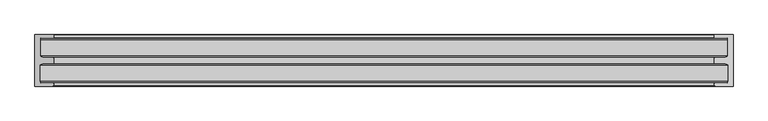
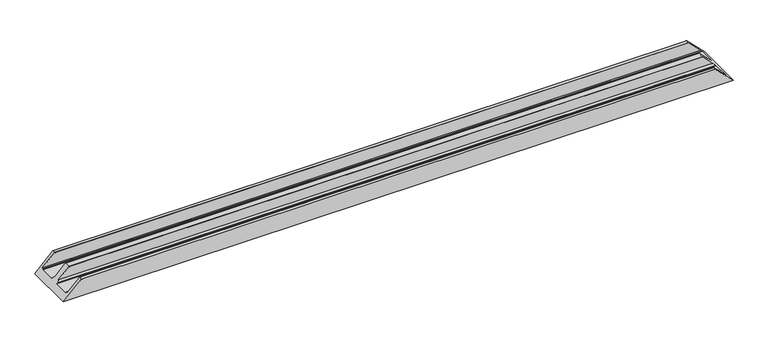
"""IFC4 building model written with IfcOpenShell, lengths in millimetres: proxy geometry, Weiku - Montante - Caixilho duplo 02.3.02.409 : Weiku - Montante - Caixilho duplo 02.3.02.409."""

from ifc_helpers import new_model, si_unit, frame, origin, place, context, project, spatial, ellipse_curve, source, transform, mapped, element, save
from ifc_brep_helpers import plane_surface, cylinder_surface, advanced_brep


def generic_models_37e9449f(model_context):
    return source(origin(), model_context, "Body", "AdvancedBrep", [
        advanced_brep(
        [(-1038.2, 9.8, 18.2), (-1000.5, 9.8, 55.9), (1000.5, 9.8, 55.9), (1038.2, 9.8, 18.2), (-1040.7000079, 63.85, 15.6999921), (-1040.7000079, 15.05, 15.6999921), (1040.7000079, 15.05, 15.6999921), (1040.7000079, 63.85, 15.6999921), (-1000.5000055, 69.1, 55.8999945), (-1032.5700642, 69.1, 23.8299358), (1032.5700642, 69.1, 23.8299358), (1000.5000055, 69.1, 55.8999945), (-1000.0000055, 86.65, 56.3999945), (-1000.0000055, 69.6, 56.3999945), (1000.0000055, 69.6, 56.3999945), (1000.0000055, 86.65, 56.3999945), (-1032.6236827, 87.15, 23.7763173), (-1000.5000055, 87.15, 55.8999945), (1000.5000055, 87.15, 55.8999945), (1032.6236827, 87.15, 23.7763173), (-1056.4, 156.2000166, 0.0), (1056.4, 156.2000166, 0.0), (1056.4, 0.0, 0.0), (-1056.4, 0.0, 0.0), (1000.5, 0.0, 55.9), (-1000.5, 0.0, 55.9), (-1000.0, 9.3, 56.4), (-1000.0, 0.5, 56.4), (1000.0, 0.5, 56.4), (1000.0, 9.3, 56.4), (-1038.2, 15.05, 18.2), (-1038.2, 63.85, 18.2), (-1038.2000178, 92.3500166, 18.1999822), (-1040.7000079, 92.3500166, 15.6999921), (-1040.7000079, 141.1500166, 15.6999921), (-1038.2, 141.1500166, 18.2), (-1038.2, 146.4000166, 18.2), (-1000.5, 146.4000166, 55.9), (-1000.0, 146.9000166, 56.4), (-1000.0, 155.7000166, 56.4), (-1000.5, 156.2000166, 55.9), (1000.5, 156.2000166, 55.9), (1000.0, 155.7000166, 56.4), (1000.0, 146.9000166, 56.4), (1000.5, 146.4000166, 55.9), (1038.2, 146.4000166, 18.2), (1038.2, 141.1500166, 18.2), (1040.7000079, 141.1500166, 15.6999921), (1040.7000079, 92.3500166, 15.6999921), (1038.2000178, 92.3500166, 18.1999822), (1038.2, 63.85, 18.2), (1038.2, 15.05, 18.2)],
        [
            (0, 1),
            (1, 2),
            (2, 3),
            (3, 0),
            (4, 5),
            (5, 6),
            (6, 7),
            (7, 4),
            (8, 9),
            (9, 10),
            (10, 11),
            (11, 8),
            (12, 13),
            (13, 14),
            (14, 15),
            (15, 12),
            (16, 17),
            (17, 18),
            (18, 19),
            (19, 16),
            (20, 21),
            (21, 22),
            (22, 23),
            (23, 20),
            (22, 24),
            (24, 25),
            (25, 23),
            (26, 27),
            (27, 28),
            (28, 29),
            (29, 26),
            (0, 30),
            (30, 5),
            (4, 31),
            (31, 9),
            (8, 13, ellipse_curve(frame((-1000.5000055, 69.6, 55.8999945), z_axis=(-0.7071067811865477, 0.0, 0.7071067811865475), x_axis=(-0.7071067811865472, 0.0, -0.7071067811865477)), 0.7071068, 0.5)),
            (12, 17, ellipse_curve(frame((-1000.5000055, 86.65, 55.8999945), z_axis=(-0.7071067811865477, 0.0, 0.7071067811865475), x_axis=(-0.7071067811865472, 0.0, -0.7071067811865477)), 0.7071068, 0.5)),
            (16, 32),
            (32, 33),
            (33, 34),
            (34, 35),
            (35, 36),
            (36, 37),
            (37, 38, ellipse_curve(frame((-1000.5, 146.9000166, 55.9), z_axis=(-0.7071067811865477, 0.0, 0.7071067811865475), x_axis=(-0.7071067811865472, 0.0, -0.7071067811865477)), 0.7071068, 0.5)),
            (38, 39),
            (39, 40, ellipse_curve(frame((-1000.5, 155.7000166, 55.9), z_axis=(-0.7071067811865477, 0.0, 0.7071067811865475), x_axis=(-0.7071067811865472, 0.0, -0.7071067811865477)), 0.7071068, 0.5)),
            (40, 20),
            (25, 27, ellipse_curve(frame((-1000.5, 0.5, 55.9), z_axis=(-0.7071067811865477, 0.0, 0.7071067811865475), x_axis=(-0.7071067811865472, 0.0, -0.7071067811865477)), 0.7071068, 0.5)),
            (26, 1, ellipse_curve(frame((-1000.5, 9.3, 55.9), z_axis=(-0.7071067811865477, 0.0, 0.7071067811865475), x_axis=(-0.7071067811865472, 0.0, -0.7071067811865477)), 0.7071068, 0.5)),
            (2, 29, ellipse_curve(frame((1000.5, 9.3, 55.9), z_axis=(0.7071067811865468, 0.0, 0.7071067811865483), x_axis=(-0.7071067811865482, 0.0, 0.7071067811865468)), 0.7071068, 0.5)),
            (28, 24, ellipse_curve(frame((1000.5, 0.5, 55.9), z_axis=(0.7071067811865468, 0.0, 0.7071067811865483), x_axis=(-0.7071067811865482, 0.0, 0.7071067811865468)), 0.7071068, 0.5)),
            (21, 41),
            (41, 42, ellipse_curve(frame((1000.5, 155.7000166, 55.9), z_axis=(0.7071067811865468, 0.0, 0.7071067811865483), x_axis=(-0.7071067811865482, 0.0, 0.7071067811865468)), 0.7071068, 0.5)),
            (42, 43),
            (43, 44, ellipse_curve(frame((1000.5, 146.9000166, 55.9), z_axis=(0.7071067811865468, 0.0, 0.7071067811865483), x_axis=(-0.7071067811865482, 0.0, 0.7071067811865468)), 0.7071068, 0.5)),
            (44, 45),
            (45, 46),
            (46, 47),
            (47, 48),
            (48, 49),
            (49, 19),
            (18, 15, ellipse_curve(frame((1000.5000055, 86.65, 55.8999945), z_axis=(0.7071067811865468, 0.0, 0.7071067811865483), x_axis=(-0.7071067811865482, 0.0, 0.7071067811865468)), 0.7071068, 0.5)),
            (14, 11, ellipse_curve(frame((1000.5000055, 69.6, 55.8999945), z_axis=(0.7071067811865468, 0.0, 0.7071067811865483), x_axis=(-0.7071067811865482, 0.0, 0.7071067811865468)), 0.7071068, 0.5)),
            (10, 50),
            (50, 7),
            (6, 51),
            (51, 3),
            (51, 30),
            (50, 31),
            (49, 32),
            (48, 33),
            (47, 34),
            (46, 35),
            (45, 36),
            (44, 37),
            (38, 43),
            (42, 39),
            (41, 40),
        ],
        [
            plane_surface(frame((-1056.4, 9.8, 55.9), z_axis=(0.0, 1.0, 0.0), x_axis=(1.0, 0.0, 0.0))),
            plane_surface(frame((-1056.4, 15.05, 15.6999921), z_axis=(0.0, 0.0, 1.0), x_axis=(1.0, 0.0, 0.0))),
            plane_surface(frame((-1056.4, 69.1, 23.8299358), z_axis=(0.0, -1.0, 0.0), x_axis=(1.0, 0.0, 0.0))),
            plane_surface(frame((-1056.4, 69.6, 56.3999945), z_axis=(0.0, 0.0, 1.0), x_axis=(1.0, 0.0, 0.0))),
            plane_surface(frame((-1056.4, 87.15, 55.8999945), z_axis=(0.0, 1.0, 0.0), x_axis=(1.0, 0.0, 0.0))),
            plane_surface(frame((-1056.4, 156.2000166, 0.0), z_axis=(0.0, 0.0, -1.0), x_axis=(1.0, 0.0, 0.0))),
            plane_surface(frame((-1056.4, 0.0, 0.0), z_axis=(0.0, -1.0, 0.0), x_axis=(1.0, 0.0, 0.0))),
            plane_surface(frame((-1056.4, 0.5, 56.4), z_axis=(0.0, 0.0, 1.0), x_axis=(1.0, 0.0, 0.0))),
            plane_surface(frame((-1056.4, 0.0, 0.0), z_axis=(-0.7071067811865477, 0.0, 0.7071067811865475), x_axis=(0.0, 1.0, 0.0))),
            plane_surface(frame((996.4, 0.0, 60.0), z_axis=(0.7071067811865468, 0.0, 0.7071067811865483), x_axis=(0.0, 1.0, 0.0))),
            plane_surface(frame((-1056.4, 9.8, 18.2), z_axis=(0.0, 0.0, 1.0), x_axis=(1.0, 0.0, 0.0))),
            plane_surface(frame((-1056.4, 15.05, 18.2), z_axis=(0.0, 1.0, 0.0), x_axis=(1.0, 0.0, 0.0))),
            plane_surface(frame((-1056.4, 63.85, 15.6999921), z_axis=(0.0, -1.0, 0.0), x_axis=(1.0, 0.0, 0.0))),
            plane_surface(frame((-1056.4, 63.85, 18.2), z_axis=(0.0, -0.7313537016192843, 0.6819983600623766), x_axis=(1.0, 0.0, 0.0))),
            cylinder_surface(frame((-1056.4, 86.65, 55.8999945), z_axis=(-1.0, 0.0, 0.0), x_axis=(0.0, 1.0, 0.0)), 0.5),
            cylinder_surface(frame((-1056.4, 0.5, 55.9), z_axis=(-1.0, 0.0, 0.0), x_axis=(0.0, 1.0, 0.0)), 0.5),
            plane_surface(frame((-1056.4, 87.15, 23.7763173), z_axis=(0.0, 0.7313537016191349, 0.6819983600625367), x_axis=(1.0, 0.0, 0.0))),
            plane_surface(frame((-1056.4, 92.3500166, 18.1999822), z_axis=(0.0, 1.0, 0.0), x_axis=(1.0, 0.0, 0.0))),
            plane_surface(frame((-1056.4, 92.3500166, 15.6999921), z_axis=(0.0, 0.0, 1.0), x_axis=(1.0, 0.0, 0.0))),
            plane_surface(frame((-1056.4, 141.1500166, 15.6999921), z_axis=(0.0, -1.0, 0.0), x_axis=(1.0, 0.0, 0.0))),
            plane_surface(frame((-1056.4, 141.1500166, 18.2), z_axis=(0.0, 0.0, 1.0), x_axis=(1.0, 0.0, 0.0))),
            plane_surface(frame((-1056.4, 146.4000166, 18.2), z_axis=(0.0, -1.0, 0.0), x_axis=(1.0, 0.0, 0.0))),
            plane_surface(frame((-1056.4, 146.9000166, 56.4), z_axis=(0.0, 0.0, 1.0), x_axis=(1.0, 0.0, 0.0))),
            cylinder_surface(frame((-1056.4, 155.7000166, 55.9), z_axis=(-1.0, 0.0, 0.0), x_axis=(0.0, -1.0, 0.0)), 0.5),
            plane_surface(frame((-1056.4, 156.2000166, 55.9), z_axis=(0.0, 1.0, 0.0), x_axis=(1.0, 0.0, 0.0))),
            cylinder_surface(frame((-1056.4, 9.3, 55.9), z_axis=(-1.0, 0.0, 0.0), x_axis=(0.0, 1.0, 0.0)), 0.5),
            cylinder_surface(frame((-1056.4, 69.6, 55.8999945), z_axis=(-1.0, 0.0, 0.0), x_axis=(0.0, 1.0, 0.0)), 0.5),
            cylinder_surface(frame((-1056.4, 146.9000166, 55.9), z_axis=(-1.0, 0.0, 0.0), x_axis=(0.0, 1.0, 0.0)), 0.5),
        ],
        [
            (0, [[1, 2, 3, 4]]),
            (1, [[5, 6, 7, 8]]),
            (2, [[9, 10, 11, 12]]),
            (3, [[13, 14, 15, 16]]),
            (4, [[17, 18, 19, 20]]),
            (5, [[21, 22, 23, 24]]),
            (6, [[-23, 25, 26, 27]]),
            (7, [[28, 29, 30, 31]]),
            (8, [[-1, 32, 33, -5, 34, 35, -9, 36, -13, 37, -17, 38, 39, 40, 41, 42, 43, 44, 45, 46, 47, -24, -27, 48, -28, 49]]),
            (9, [[-3, 50, -30, 51, -25, -22, 52, 53, 54, 55, 56, 57, 58, 59, 60, 61, -19, 62, -15, 63, -11, 64, 65, -7, 66, 67]]),
            (10, [[-32, -4, -67, 68]]),
            (11, [[-33, -68, -66, -6]]),
            (12, [[-34, -8, -65, 69]]),
            (13, [[-35, -69, -64, -10]]),
            (14, [[-37, -16, -62, -18]]),
            (15, [[-48, -26, -51, -29]]),
            (16, [[-38, -20, -61, 70]]),
            (17, [[-39, -70, -60, 71]]),
            (18, [[-40, -71, -59, 72]]),
            (19, [[-41, -72, -58, 73]]),
            (20, [[-42, -73, -57, 74]]),
            (21, [[-43, -74, -56, 75]]),
            (22, [[-45, 76, -54, 77]]),
            (23, [[-46, -77, -53, 78]]),
            (24, [[-21, -47, -78, -52]]),
            (25, [[-49, -31, -50, -2]]),
            (26, [[-36, -12, -63, -14]]),
            (27, [[-44, -75, -55, -76]]),
        ],
    ),
    ])


if __name__ == "__main__":
    model = new_model("IFC4")
    model_context = context("Model", 3, world=origin())
    ifc_project = project(units=[si_unit("LENGTHUNIT", "METRE", prefix="MILLI")], contexts=[model_context])
    site = spatial("IfcSite", under=ifc_project)
    building = spatial("IfcBuilding", under=site)
    placement = place(None, origin())
    generic_models_shape = generic_models_37e9449f(model_context)
    element("IfcBuildingElementProxy", 1, Name="Weiku - Montante - Caixilho duplo 02.3.02.409 : Weiku - Montante - Caixilho duplo 02.3.02.409", ObjectType="Weiku - Montante - Caixilho duplo 02.3.02.409 : Weiku - Montante - Caixilho duplo 02.3.02.409", at=placement, inside=building, context=model_context, shape_type="MappedRepresentation", body=[
        mapped(generic_models_shape, transform((0.0, 0.0, 0.0), x_axis=(1.0, 0.0, 0.0), y_axis=(0.0, 1.0, 0.0), z_axis=(0.0, 0.0, 1.0))),
    ])
    save(model, "model.ifc")
